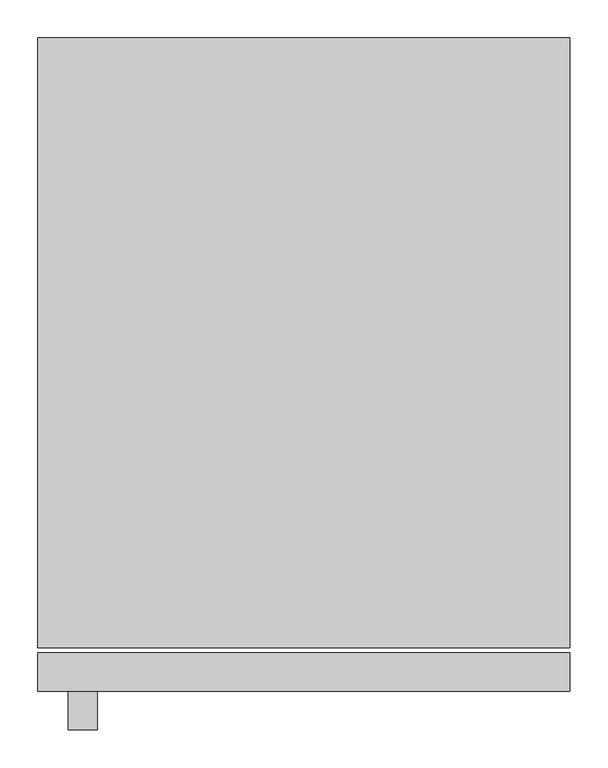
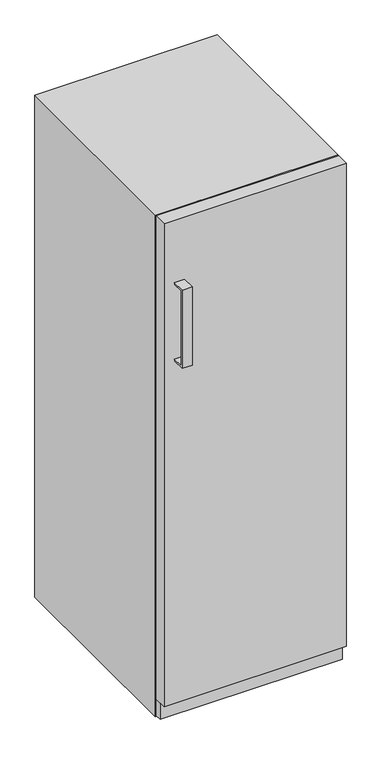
"""IFC4 building model written with IfcOpenShell, lengths in millimetres: proxy geometry, Congélateur - Vertical : 750 mm x 1800 mm."""

import ifcopenshell
import ifcopenshell.guid

model = None  # the IFC model being written
_history = None  # IfcOwnerHistory: only IFC2X3 demands one
_inside = {}  # id of a spatial element -> (the spatial element, [elements in it])
_under = {}  # id of a project, library or spatial element -> (it, [spatial elements below it])
_declared = {}  # id of a project -> (the project, [libraries it declares])
_typed = {}  # id of a type object -> (the type object, [elements of that type])
_made_of = {}  # id of a material, layer set ... -> (it, [elements and type objects made of it])


def new_model(schema):
    """Start an empty IFC model of exactly this schema.

    Asked for "IFC4X3", IfcOpenShell would pick the latest addendum, in which some entities
    have other attributes; the version numbers below select the first issue.
    IFC2X3 requires an IfcOwnerHistory on every rooted entity: one is made here for all.
    """
    global model, _history
    if schema == "IFC4X3":
        model = ifcopenshell.file(schema_version=(4, 3, 0, 0))
    else:
        model = ifcopenshell.file(schema=schema)
    _inside.clear()
    _under.clear()
    _declared.clear()
    _typed.clear()
    _made_of.clear()
    _history = None
    if model.schema == "IFC2X3":
        org = make("IfcOrganization", Name="unknown")
        user = make(
            "IfcPersonAndOrganization",
            ThePerson=make("IfcPerson", FamilyName="unknown"),
            TheOrganization=org,
        )
        app = make(
            "IfcApplication",
            ApplicationDeveloper=org,
            Version="unknown",
            ApplicationFullName="unknown",
            ApplicationIdentifier="unknown",
        )
        _history = make(
            "IfcOwnerHistory",
            OwningUser=user,
            OwningApplication=app,
            ChangeAction="ADDED",
            CreationDate=0,
        )
    return model


def make(cls, **values):
    """One entity of the class cls with the attributes given. An attribute that is None is left unset."""
    return model.create_entity(
        cls, **{name: value for name, value in values.items() if value is not None}
    )


def rooted(cls, **values):
    """An entity with a GlobalId (a new one), such as an element, a storey or a relation."""
    return make(cls, GlobalId=ifcopenshell.guid.new(), OwnerHistory=_history, **values)


def si_unit(unit_type, name, prefix=None):
    """IfcSIUnit, for example si_unit("LENGTHUNIT", "METRE", prefix="MILLI")."""
    return make("IfcSIUnit", UnitType=unit_type, Prefix=prefix, Name=name)


def assignment(units):
    """IfcUnitAssignment: the units of a project."""
    return None if units is None else make("IfcUnitAssignment", Units=units)


def point(xyz):
    """IfcCartesianPoint."""
    return None if xyz is None else make("IfcCartesianPoint", Coordinates=xyz)


def direction(xyz):
    """IfcDirection."""
    return None if xyz is None else make("IfcDirection", DirectionRatios=xyz)


def frame(location, z_axis=None, x_axis=None):
    """IfcAxis2Placement3D, a coordinate frame: its origin and axes. An axis left out is left unset."""
    return make(
        "IfcAxis2Placement3D",
        Location=point(location),
        Axis=direction(z_axis),
        RefDirection=direction(x_axis),
    )


def origin():
    """The frame at (0, 0, 0) with its axes left unset."""
    return frame((0.0, 0.0, 0.0))


def origin_with_axes():
    """The frame at (0, 0, 0) with the z axis (0, 0, 1) and the x axis (1, 0, 0) written out."""
    return frame((0.0, 0.0, 0.0), z_axis=(0.0, 0.0, 1.0), x_axis=(1.0, 0.0, 0.0))


def place(relative_to, where):
    """IfcLocalPlacement: puts the frame where relative to a parent placement (None: the world)."""
    return make(
        "IfcLocalPlacement", PlacementRelTo=relative_to, RelativePlacement=where
    )


def context(
    kind, dimensions, precision=None, world=None, true_north=None, identifier=None
):
    """IfcGeometricRepresentationContext, for example the 3D "Model" context."""
    return make(
        "IfcGeometricRepresentationContext",
        ContextIdentifier=identifier,
        ContextType=kind,
        CoordinateSpaceDimension=dimensions,
        Precision=precision,
        WorldCoordinateSystem=world,
        TrueNorth=true_north,
    )


def project(units=None, contexts=None):
    """IfcProject with its units and contexts."""
    return rooted(
        "IfcProject",
        Name="project",
        RepresentationContexts=contexts,
        UnitsInContext=assignment(units),
    )


def spatial(cls, under=None, at=None, **own):
    """A site, building, storey or space (cls), placed at a placement, below another one or the project."""
    s = rooted(cls, ObjectPlacement=at, **own)
    if under is not None:
        _under.setdefault(under.id(), (under, []))[1].append(s)
    return s


def polyline(points):
    """IfcPolyline through the points."""
    return make("IfcPolyline", Points=[point(p) for p in points])


def outline(outer, holes=None, kind="AREA"):
    """IfcArbitraryClosedProfileDef: a profile drawn as a closed curve; with holes, ...WithVoids."""
    if holes is None:
        return make("IfcArbitraryClosedProfileDef", ProfileType=kind, OuterCurve=outer)
    return make(
        "IfcArbitraryProfileDefWithVoids",
        ProfileType=kind,
        OuterCurve=outer,
        InnerCurves=holes,
    )


def extrude(swept, where, along, depth):
    """IfcExtrudedAreaSolid: the profile swept, set in the frame where, extruded along a direction by depth."""
    return make(
        "IfcExtrudedAreaSolid",
        SweptArea=swept,
        Position=where,
        ExtrudedDirection=direction(along),
        Depth=depth,
    )


def shape(context_of_items, identifier, shape_type, items):
    """IfcShapeRepresentation: the items that make up one representation, for example the "Body"."""
    return make(
        "IfcShapeRepresentation",
        ContextOfItems=context_of_items,
        RepresentationIdentifier=identifier,
        RepresentationType=shape_type,
        Items=items,
    )


def source(mapping_origin, context_of_items, identifier, shape_type, items):
    """IfcRepresentationMap: a shape defined once, which mapped items show again and again."""
    return make(
        "IfcRepresentationMap",
        MappingOrigin=mapping_origin,
        MappedRepresentation=shape(context_of_items, identifier, shape_type, items),
    )


def transform(
    local_origin,
    x_axis=None,
    y_axis=None,
    z_axis=None,
    scale=None,
    scale2=None,
    scale3=None,
    uniform=True,
):
    """IfcCartesianTransformationOperator3D, or its non-uniform kind. x_axis, y_axis, z_axis: its Axis1, 2, 3."""
    if uniform:
        return make(
            "IfcCartesianTransformationOperator3D",
            Axis1=direction(x_axis),
            Axis2=direction(y_axis),
            LocalOrigin=point(local_origin),
            Scale=scale,
            Axis3=direction(z_axis),
        )
    return make(
        "IfcCartesianTransformationOperator3DnonUniform",
        Axis1=direction(x_axis),
        Axis2=direction(y_axis),
        LocalOrigin=point(local_origin),
        Scale=scale,
        Axis3=direction(z_axis),
        Scale2=scale2,
        Scale3=scale3,
    )


def mapped(mapping_source, mapping_target):
    """IfcMappedItem: shows the shape of a source again, moved by a transform."""
    return make(
        "IfcMappedItem", MappingSource=mapping_source, MappingTarget=mapping_target
    )


def made_of(thing, what):
    """Note that an element or type object is made of a material, layer set ...; save() writes the relation."""
    if what is not None:
        _made_of.setdefault(what.id(), (what, []))[1].append(thing)
    return thing


def element(
    cls,
    number,
    at=None,
    inside=None,
    cuts=None,
    type_object=None,
    material=None,
    context=None,
    identifier="Body",
    shape_type=None,
    held_by="IfcProductDefinitionShape",
    body=None,
    shapes=None,
    **own,
):
    """One element of the class cls, such as IfcWall. Its Tag is "e" and its number.

    at: its placement. inside: the storey or other place that contains it. cuts: it is an
    opening in that element (IfcRelVoidsElement). A single representation is given by context,
    identifier, shape_type and body (its items); several are given by shapes. held_by: the class
    of the entity that holds the representations. save() writes the other relations.
    """
    e = rooted(cls, Tag="e%d" % number, ObjectPlacement=at, **own)
    if body is not None:
        shapes = [shape(context, identifier, shape_type, body)]
    if shapes is not None:
        e.Representation = make(held_by, Representations=shapes)
    if inside is not None:
        _inside.setdefault(inside.id(), (inside, []))[1].append(e)
    if cuts is not None:
        rooted(
            "IfcRelVoidsElement", RelatingBuildingElement=cuts, RelatedOpeningElement=e
        )
    if type_object is not None:
        _typed.setdefault(type_object.id(), (type_object, []))[1].append(e)
    return made_of(e, material)


def aggregate(whole, parts):
    """IfcRelAggregates: a whole, such as a stair, and the parts it consists of."""
    return rooted("IfcRelAggregates", RelatingObject=whole, RelatedObjects=parts)


def save(model, path):
    """Write the relations noted so far, then the file.

    IfcRelAggregates (storeys below a building ...), IfcRelContainedInSpatialStructure (elements
    in a storey), IfcRelDefinesByType, IfcRelAssociatesMaterial and IfcRelDeclares: one each for
    every whole, place, type object, material and project.
    """
    for whole, parts in _under.values():
        aggregate(whole, parts)
    for where, things in _inside.values():
        rooted(
            "IfcRelContainedInSpatialStructure",
            RelatedElements=things,
            RelatingStructure=where,
        )
    for kind, things in _typed.values():
        rooted("IfcRelDefinesByType", RelatedObjects=things, RelatingType=kind)
    for what, things in _made_of.values():
        rooted("IfcRelAssociatesMaterial", RelatedObjects=things, RelatingMaterial=what)
    for by, libraries in _declared.values():
        rooted("IfcRelDeclares", RelatingContext=by, RelatedDefinitions=libraries)
    model.write(path)


def specialty_equipment_6072f91d(model_context):
    return source(origin(), model_context, "Body", "SweptSolid", [
        extrude(outline(polyline([(-444.6760285, 1779.65), (-489.1260285, 1779.65), (-489.1260285, 1474.85), (-444.6760285, 1474.85), (-444.6760285, 1468.5154683), (-495.4760285, 1468.5154683), (-495.4760285, 1786.0), (-444.6760285, 1786.0), (-444.6760285, 1779.65)])), frame((-310.0, 0.0, 0.0), z_axis=(1.0, 0.0, 0.0), x_axis=(0.0, 1.0, 0.0)), (0.0, 0.0, 1.0), 38.1),
        extrude(outline(polyline([(350.0, 415.3239715), (350.0, -387.5260285), (-350.0, -387.5260285), (-350.0, 415.3239715), (350.0, 415.3239715)])), origin_with_axes(), (0.0, 0.0, 1.0), 2040.0),
        extrude(outline(polyline([(350.0, -393.8760285), (350.0, -419.2760285), (-350.0, -419.2760285), (-350.0, -393.8760285), (350.0, -393.8760285)])), frame((0.0, 0.0, 9.3816357), z_axis=(0.0, 0.0, 1.0), x_axis=(1.0, 0.0, 0.0)), (0.0, 0.0, 1.0), 63.5),
        extrude(outline(polyline([(350.0, -393.8760285), (350.0, -444.6760285), (-350.0, -444.6760285), (-350.0, -393.8760285), (350.0, -393.8760285)])), frame((0.0, 0.0, 76.2), z_axis=(0.0, 0.0, 1.0), x_axis=(1.0, 0.0, 0.0)), (0.0, 0.0, 1.0), 1963.8),
    ])


if __name__ == "__main__":
    model = new_model("IFC4")
    model_context = context("Model", 3, world=origin())
    ifc_project = project(units=[si_unit("LENGTHUNIT", "METRE", prefix="MILLI")], contexts=[model_context])
    site = spatial("IfcSite", under=ifc_project)
    building = spatial("IfcBuilding", under=site)
    placement = place(None, origin())
    specialty_equipment_shape = specialty_equipment_6072f91d(model_context)
    element("IfcBuildingElementProxy", 1, Name="Congélateur - Vertical : 750 mm x 1800 mm", ObjectType="Congélateur - Vertical : 750 mm x 1800 mm", at=placement, inside=building, context=model_context, shape_type="MappedRepresentation", body=[
        mapped(specialty_equipment_shape, transform((0.0, 0.0, 0.0), x_axis=(1.0, 0.0, 0.0), y_axis=(0.0, 1.0, 0.0), z_axis=(0.0, 0.0, 1.0))),
    ])
    save(model, "model.ifc")
